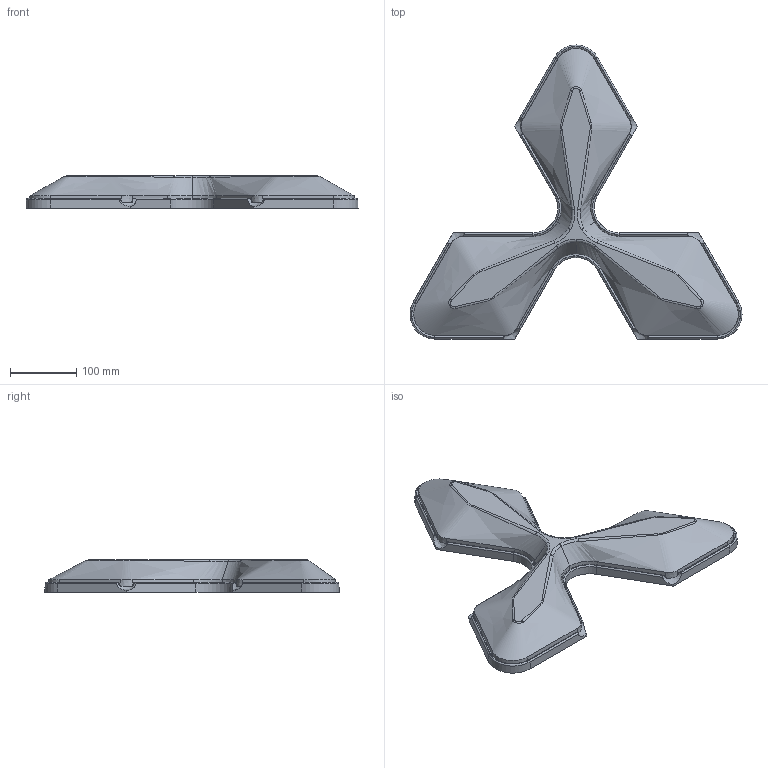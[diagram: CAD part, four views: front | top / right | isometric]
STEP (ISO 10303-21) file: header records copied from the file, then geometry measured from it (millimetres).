
FILE_DESCRIPTION((''),'2;1');
FILE_NAME('C:\Users\Kalina\Desktop\Efoliar.stp','2014-07-29T12:30:12',('Demetre'),(''),'Autodesk Inventor 2012','Autodesk Inventor 2012','');
FILE_SCHEMA(('AUTOMOTIVE_DESIGN { 1 2 10303 214 0 1 1 1 }'));
Length unit declared in the file: millimetre
Products named in the file (3): Assembly1; Base_01; Foliar Acoustic MOD 4mm
Assembly tree (2 placements, depth 2):
  Assembly1
    Base_01
    Foliar Acoustic MOD 4mm
Bounding box: 501.08 x 444 x 49 mm (x, y, z)
Volume: 692214.5 mm3; surface area: 435166.1 mm2
Topology: 2 solids, 2 shells, 746 faces, 1965 edges, 1275 vertices
Faces by surface type: plane 328, bspline 213, cylinder 95, torus 74, cone 30, sphere 6
Full cylindrical faces by diameter (mm): 1.134 x1, 5 x4, 8.5 x3, 8.6 x3, 12.3 x6, 16.5 x6, 20 x1, 25 x1, 68.79 x1
Entity records: 57793 total; most frequent: CARTESIAN_POINT 41000, ORIENTED_EDGE 3762, DIRECTION 2839, EDGE_CURVE 1881, VERTEX_POINT 1264, AXIS2_PLACEMENT_3D 951, VECTOR 937, LINE 937
